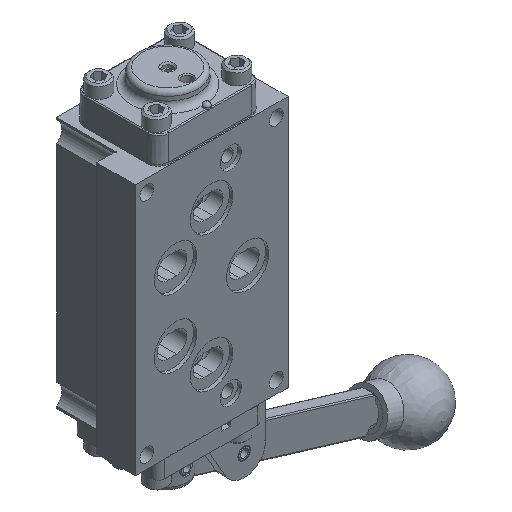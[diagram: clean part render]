
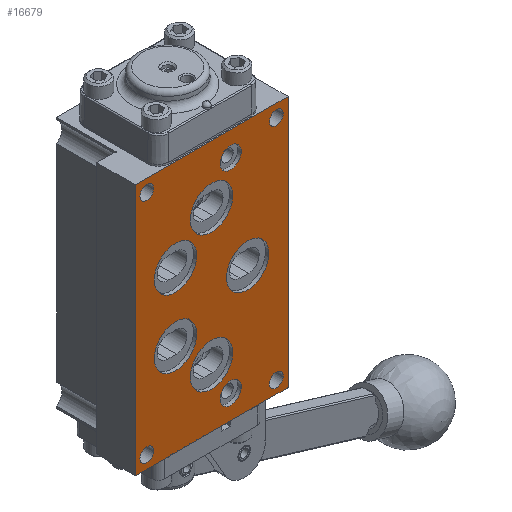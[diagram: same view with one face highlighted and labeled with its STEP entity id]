
A CAD part, isometric view. The second image highlights one B-rep face of the part: STEP entity #16679.
In plain terms, the highlighted planar face has unit normal (0, -1, 0).
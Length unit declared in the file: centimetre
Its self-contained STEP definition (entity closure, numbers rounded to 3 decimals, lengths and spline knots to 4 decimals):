
#887=LINE('',#30804,#1829);
#888=LINE('',#30806,#1830);
#889=LINE('',#30808,#1831);
#890=LINE('',#30809,#1832);
#1829=VECTOR('',#22708,5.715);
#1830=VECTOR('',#22709,9.4209);
#1831=VECTOR('',#22710,5.715);
#1832=VECTOR('',#22711,9.4209);
#3083=FACE_BOUND('',#5309,.T.);
#3084=FACE_BOUND('',#5310,.T.);
#3085=FACE_BOUND('',#5311,.T.);
#3086=FACE_BOUND('',#5312,.T.);
#3087=FACE_BOUND('',#5313,.T.);
#3088=FACE_BOUND('',#5314,.T.);
#3089=FACE_BOUND('',#5315,.T.);
#3090=FACE_BOUND('',#5316,.T.);
#3091=FACE_BOUND('',#5317,.T.);
#3092=FACE_BOUND('',#5318,.T.);
#3093=FACE_BOUND('',#5319,.T.);
#4077=FACE_OUTER_BOUND('',#5308,.T.);
#5308=EDGE_LOOP('',(#13890,#13891,#13892,#13893));
#5309=EDGE_LOOP('',(#13894));
#5310=EDGE_LOOP('',(#13895));
#5311=EDGE_LOOP('',(#13896));
#5312=EDGE_LOOP('',(#13897));
#5313=EDGE_LOOP('',(#13898));
#5314=EDGE_LOOP('',(#13899));
#5315=EDGE_LOOP('',(#13900));
#5316=EDGE_LOOP('',(#13901));
#5317=EDGE_LOOP('',(#13902));
#5318=EDGE_LOOP('',(#13903));
#5319=EDGE_LOOP('',(#13904));
#6325=CIRCLE('',#18428,0.3962);
#6326=CIRCLE('',#18429,0.3962);
#6327=CIRCLE('',#18430,0.7938);
#6328=CIRCLE('',#18431,0.7938);
#6329=CIRCLE('',#18432,0.7938);
#6330=CIRCLE('',#18433,0.7938);
#6331=CIRCLE('',#18434,0.7938);
#6332=CIRCLE('',#18435,0.258);
#6333=CIRCLE('',#18436,0.258);
#6334=CIRCLE('',#18437,0.258);
#6335=CIRCLE('',#18438,0.258);
#7742=VERTEX_POINT('',#30802);
#7743=VERTEX_POINT('',#30803);
#7744=VERTEX_POINT('',#30805);
#7745=VERTEX_POINT('',#30807);
#7746=VERTEX_POINT('',#30810);
#7747=VERTEX_POINT('',#30812);
#7748=VERTEX_POINT('',#30814);
#7749=VERTEX_POINT('',#30816);
#7750=VERTEX_POINT('',#30818);
#7751=VERTEX_POINT('',#30820);
#7752=VERTEX_POINT('',#30822);
#7753=VERTEX_POINT('',#30824);
#7754=VERTEX_POINT('',#30826);
#7755=VERTEX_POINT('',#30828);
#7756=VERTEX_POINT('',#30830);
#9858=EDGE_CURVE('',#7742,#7743,#887,.T.);
#9859=EDGE_CURVE('',#7743,#7744,#888,.T.);
#9860=EDGE_CURVE('',#7744,#7745,#889,.T.);
#9861=EDGE_CURVE('',#7745,#7742,#890,.T.);
#9862=EDGE_CURVE('',#7746,#7746,#6325,.T.);
#9863=EDGE_CURVE('',#7747,#7747,#6326,.T.);
#9864=EDGE_CURVE('',#7748,#7748,#6327,.T.);
#9865=EDGE_CURVE('',#7749,#7749,#6328,.T.);
#9866=EDGE_CURVE('',#7750,#7750,#6329,.T.);
#9867=EDGE_CURVE('',#7751,#7751,#6330,.T.);
#9868=EDGE_CURVE('',#7752,#7752,#6331,.T.);
#9869=EDGE_CURVE('',#7753,#7753,#6332,.T.);
#9870=EDGE_CURVE('',#7754,#7754,#6333,.T.);
#9871=EDGE_CURVE('',#7755,#7755,#6334,.T.);
#9872=EDGE_CURVE('',#7756,#7756,#6335,.T.);
#13890=ORIENTED_EDGE('',*,*,#9858,.T.);
#13891=ORIENTED_EDGE('',*,*,#9859,.T.);
#13892=ORIENTED_EDGE('',*,*,#9860,.T.);
#13893=ORIENTED_EDGE('',*,*,#9861,.T.);
#13894=ORIENTED_EDGE('',*,*,#9862,.T.);
#13895=ORIENTED_EDGE('',*,*,#9863,.T.);
#13896=ORIENTED_EDGE('',*,*,#9864,.T.);
#13897=ORIENTED_EDGE('',*,*,#9865,.T.);
#13898=ORIENTED_EDGE('',*,*,#9866,.T.);
#13899=ORIENTED_EDGE('',*,*,#9867,.T.);
#13900=ORIENTED_EDGE('',*,*,#9868,.T.);
#13901=ORIENTED_EDGE('',*,*,#9869,.T.);
#13902=ORIENTED_EDGE('',*,*,#9870,.T.);
#13903=ORIENTED_EDGE('',*,*,#9871,.T.);
#13904=ORIENTED_EDGE('',*,*,#9872,.T.);
#14795=PLANE('',#18427);
#16679=ADVANCED_FACE('',(#4077,#3083,#3084,#3085,#3086,#3087,#3088,#3089,
#3090,#3091,#3092,#3093),#14795,.T.);
#18427=AXIS2_PLACEMENT_3D('',#30801,#22706,#22707);
#18428=AXIS2_PLACEMENT_3D('',#30811,#22712,#22713);
#18429=AXIS2_PLACEMENT_3D('',#30813,#22714,#22715);
#18430=AXIS2_PLACEMENT_3D('',#30815,#22716,#22717);
#18431=AXIS2_PLACEMENT_3D('',#30817,#22718,#22719);
#18432=AXIS2_PLACEMENT_3D('',#30819,#22720,#22721);
#18433=AXIS2_PLACEMENT_3D('',#30821,#22722,#22723);
#18434=AXIS2_PLACEMENT_3D('',#30823,#22724,#22725);
#18435=AXIS2_PLACEMENT_3D('',#30825,#22726,#22727);
#18436=AXIS2_PLACEMENT_3D('',#30827,#22728,#22729);
#18437=AXIS2_PLACEMENT_3D('',#30829,#22730,#22731);
#18438=AXIS2_PLACEMENT_3D('',#30831,#22732,#22733);
#22706=DIRECTION('center_axis',(0.,-1.,0.));
#22707=DIRECTION('ref_axis',(0.,0.,-1.));
#22708=DIRECTION('',(-1.,0.,0.));
#22709=DIRECTION('',(0.,0.,-1.));
#22710=DIRECTION('',(1.,0.,0.));
#22711=DIRECTION('',(0.,0.,1.));
#22712=DIRECTION('center_axis',(0.,1.,0.));
#22713=DIRECTION('ref_axis',(1.,0.,0.));
#22714=DIRECTION('center_axis',(0.,1.,0.));
#22715=DIRECTION('ref_axis',(1.,0.,0.));
#22716=DIRECTION('center_axis',(0.,1.,0.));
#22717=DIRECTION('ref_axis',(1.,0.,0.));
#22718=DIRECTION('center_axis',(0.,1.,0.));
#22719=DIRECTION('ref_axis',(1.,0.,0.));
#22720=DIRECTION('center_axis',(0.,1.,0.));
#22721=DIRECTION('ref_axis',(1.,0.,0.));
#22722=DIRECTION('center_axis',(0.,1.,0.));
#22723=DIRECTION('ref_axis',(1.,0.,0.));
#22724=DIRECTION('center_axis',(0.,1.,0.));
#22725=DIRECTION('ref_axis',(1.,0.,0.));
#22726=DIRECTION('center_axis',(0.,1.,0.));
#22727=DIRECTION('ref_axis',(1.,0.,0.));
#22728=DIRECTION('center_axis',(0.,1.,0.));
#22729=DIRECTION('ref_axis',(1.,0.,0.));
#22730=DIRECTION('center_axis',(0.,1.,0.));
#22731=DIRECTION('ref_axis',(1.,0.,0.));
#22732=DIRECTION('center_axis',(0.,1.,0.));
#22733=DIRECTION('ref_axis',(1.,0.,0.));
#30801=CARTESIAN_POINT('Origin',(2.8575,-1.6358,0.));
#30802=CARTESIAN_POINT('',(2.8575,-1.6358,4.7104));
#30803=CARTESIAN_POINT('',(-2.8575,-1.6358,4.7104));
#30804=CARTESIAN_POINT('',(-2.8575,-1.6358,4.7104));
#30805=CARTESIAN_POINT('',(-2.8575,-1.6358,-4.7104));
#30806=CARTESIAN_POINT('',(-2.8575,-1.6358,0.));
#30807=CARTESIAN_POINT('',(2.8575,-1.6358,-4.7104));
#30808=CARTESIAN_POINT('',(-2.8575,-1.6358,-4.7104));
#30809=CARTESIAN_POINT('',(2.8575,-1.6358,0.));
#30810=CARTESIAN_POINT('',(1.11,-1.6358,-3.81));
#30811=CARTESIAN_POINT('Origin',(0.7137,-1.6358,-3.81));
#30812=CARTESIAN_POINT('',(1.11,-1.6358,3.81));
#30813=CARTESIAN_POINT('Origin',(0.7137,-1.6358,3.81));
#30814=CARTESIAN_POINT('',(2.1425,-1.6358,0.));
#30815=CARTESIAN_POINT('Origin',(1.3487,-1.6358,0.));
#30816=CARTESIAN_POINT('',(0.7938,-1.6358,-2.54));
#30817=CARTESIAN_POINT('Origin',(0.,-1.6358,-2.54));
#30818=CARTESIAN_POINT('',(0.7938,-1.6358,2.54));
#30819=CARTESIAN_POINT('Origin',(0.,-1.6358,2.54));
#30820=CARTESIAN_POINT('',(-0.555,-1.6358,-1.27));
#30821=CARTESIAN_POINT('Origin',(-1.3487,-1.6358,-1.27));
#30822=CARTESIAN_POINT('',(-0.555,-1.6358,1.27));
#30823=CARTESIAN_POINT('Origin',(-1.3487,-1.6358,1.27));
#30824=CARTESIAN_POINT('',(-2.6786,-1.6358,4.2469));
#30825=CARTESIAN_POINT('Origin',(-2.4206,-1.6358,4.2469));
#30826=CARTESIAN_POINT('',(2.1627,-1.6358,4.2469));
#30827=CARTESIAN_POINT('Origin',(2.4206,-1.6358,4.2469));
#30828=CARTESIAN_POINT('',(2.1627,-1.6358,-4.2469));
#30829=CARTESIAN_POINT('Origin',(2.4206,-1.6358,-4.2469));
#30830=CARTESIAN_POINT('',(-2.6786,-1.6358,-4.2469));
#30831=CARTESIAN_POINT('Origin',(-2.4206,-1.6358,-4.2469));
